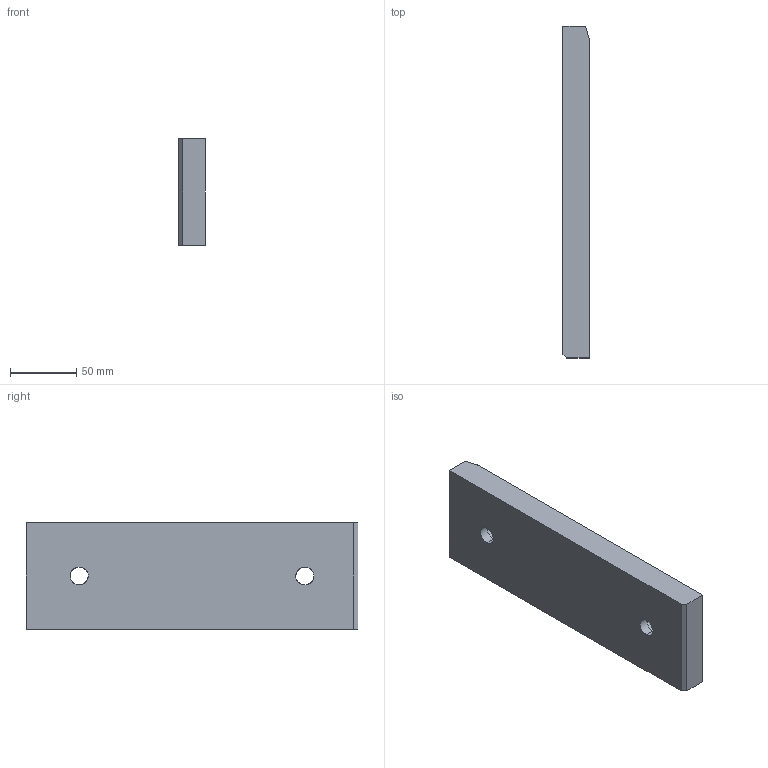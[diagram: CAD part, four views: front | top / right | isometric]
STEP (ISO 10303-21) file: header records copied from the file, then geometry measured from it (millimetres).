
FILE_DESCRIPTION(('CATIA V5 STEP Exchange'),'2;1');
FILE_NAME('C:\Users\borellobunino\Desktop\3D X SITO CF\A915\GSB_OILLESS_G22501080250\STEP-2.03\A915-80X250.stp','2019-07-14T13:01:41+00:00',('none'),('none'),'CATIA Version 5 Release 20 GA (IN-10)','CATIA V5 STEP AP203','none');
FILE_SCHEMA(('CONFIG_CONTROL_DESIGN'));
Length unit declared in the file: millimetre
Products named in the file (1): A915-80X250
Bounding box: 20 x 250 x 80 mm (x, y, z)
Volume: 388135.6 mm3; surface area: 54337.9 mm2
Topology: 1 solids, 1 shells, 23 faces, 73 edges, 54 vertices
Faces by surface type: plane 10, cylinder 9, torus 4
Entity records: 1057 total; most frequent: CARTESIAN_POINT 375, ORIENTED_EDGE 146, DIRECTION 103, EDGE_CURVE 73, AXIS2_PLACEMENT_3D 54, VERTEX_POINT 54, CIRCLE 30, EDGE_LOOP 29
